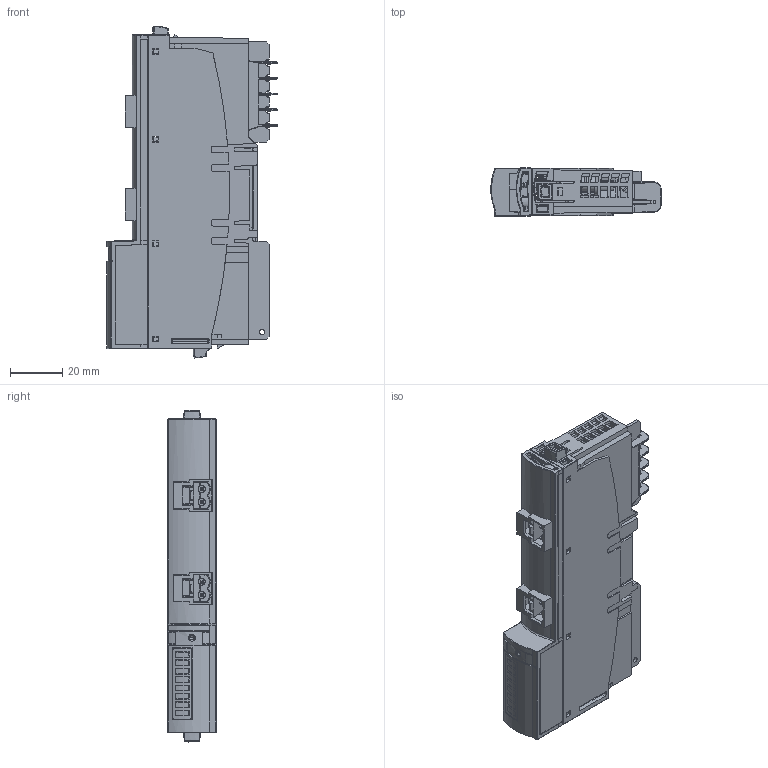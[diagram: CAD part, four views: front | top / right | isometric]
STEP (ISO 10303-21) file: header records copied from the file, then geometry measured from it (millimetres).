
FILE_DESCRIPTION((''),'2;1');
FILE_NAME('STB_PDT_MOD_S_ENS_ASM','2018-05-29T',('SESA42808'),('Schneider-Electric'),'PRO/ENGINEER BY PARAMETRIC TECHNOLOGY CORPORATION, 2015440','PRO/ENGINEER BY PARAMETRIC TECHNOLOGY CORPORATION, 2015440','');
FILE_SCHEMA(('CONFIG_CONTROL_DESIGN'));
Products named in the file (15): 35005999_2D; PINCE_FUSIBLE; STB_PDT_MOD_CON_BROCHE_10; STB_PDT_MOD_SUPP-BROCHE; STB_PDT_CONNECT_CARTE_508_ASM; 35005999_ASM; STB_PDT_MOD_PLASTRON; STB_T2_MOD_CONDUIT_LUM; STB_T2_MOD_PROTEC_LUM; STB_PDT_S_ENS_PLASTRON_ASM; 35007615; STB_MOD_SUPPORT_FUSIBLE; FUSIBLE_5X20; STB_T2_ETIQU_SIGNAL_COURB; STB_PDT_MOD_S_ENS_ASM
Assembly tree (21 placements, depth 4):
  STB_PDT_MOD_S_ENS_ASM
    35005999_ASM
      35005999_2D
      PINCE_FUSIBLE  x4
      STB_PDT_CONNECT_CARTE_508_ASM  x2
        STB_PDT_MOD_CON_BROCHE_10
        STB_PDT_MOD_SUPP-BROCHE
    STB_PDT_S_ENS_PLASTRON_ASM
      STB_PDT_MOD_PLASTRON
      STB_T2_MOD_CONDUIT_LUM
      STB_T2_MOD_PROTEC_LUM
    35007615
    STB_MOD_SUPPORT_FUSIBLE  x2
    FUSIBLE_5X20  x2
    STB_T2_ETIQU_SIGNAL_COURB
Bounding box: 65.07 x 18.4 x 126.97 mm (x, y, z)
Volume: 38621.5 mm3; surface area: 63762.3 mm2
Topology: 20 solids, 20 shells, 4903 faces, 13740 edges, 8847 vertices
Faces by surface type: plane 3379, cylinder 1021, bspline 211, cone 129, torus 91, sphere 46, extrusion 26
Entity records: 149397 total; most frequent: CARTESIAN_POINT 44096, ORIENTED_EDGE 23824, DIRECTION 18716, EDGE_CURVE 11912, VECTOR 8740, LINE 8727, VERTEX_POINT 7691, AXIS2_PLACEMENT_3D 4988
